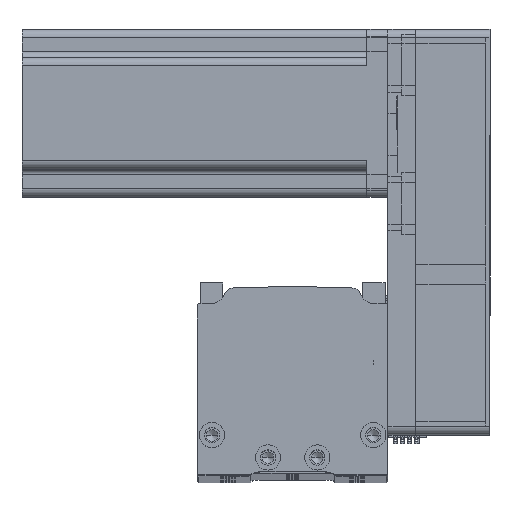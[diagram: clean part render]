
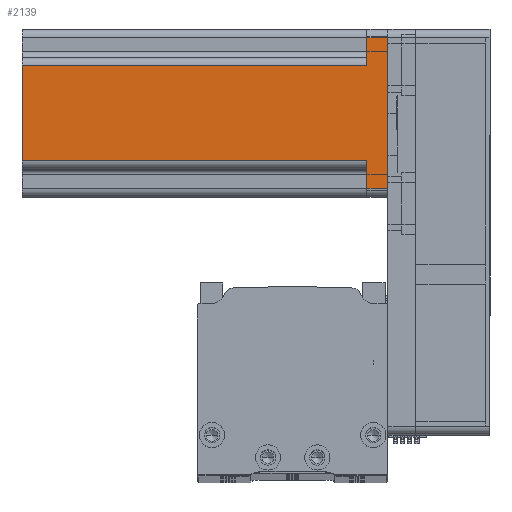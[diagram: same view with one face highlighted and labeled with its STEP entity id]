
A CAD part, top view. The second image highlights one B-rep face of the part: STEP entity #2139.
In plain terms, the highlighted planar face has unit normal (0, 0, 1) as drawn and (0, -1, 0) by its records, which use the part's own axes.
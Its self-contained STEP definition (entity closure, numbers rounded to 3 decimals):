
#496 = LINE ( 'NONE', #47644, #24855 ) ;
#2139 = ADVANCED_FACE ( 'NONE', ( #38403 ), #27820, .F. ) ;
#3108 = CARTESIAN_POINT ( 'NONE',  ( -17., -30., 130.7 ) ) ;
#4051 = VERTEX_POINT ( 'NONE', #52385 ) ;
#4256 = EDGE_CURVE ( 'NONE', #36149, #5729, #42375, .T. ) ;
#4398 = EDGE_CURVE ( 'NONE', #41270, #16251, #56707, .T. ) ;
#5729 = VERTEX_POINT ( 'NONE', #45026 ) ;
#5810 = DIRECTION ( 'NONE',  ( 0., 1., 0. ) ) ;
#6196 = VECTOR ( 'NONE', #42402, 1000. ) ;
#6532 = CARTESIAN_POINT ( 'NONE',  ( 30., -30., 130.7 ) ) ;
#6661 = ORIENTED_EDGE ( 'NONE', *, *, #28246, .T. ) ;
#8921 = LINE ( 'NONE', #6532, #19732 ) ;
#9641 = CARTESIAN_POINT ( 'NONE',  ( 17., -30., 130.7 ) ) ;
#10033 = ORIENTED_EDGE ( 'NONE', *, *, #25596, .F. ) ;
#10522 = CARTESIAN_POINT ( 'NONE',  ( -27., -30., 130.7 ) ) ;
#11936 = DIRECTION ( 'NONE',  ( 1., 0., 0. ) ) ;
#13066 = DIRECTION ( 'NONE',  ( -1., 0., 0. ) ) ;
#13356 = LINE ( 'NONE', #44904, #53522 ) ;
#13911 = CARTESIAN_POINT ( 'NONE',  ( 27., -30., 130.7 ) ) ;
#16251 = VERTEX_POINT ( 'NONE', #42685 ) ;
#17312 = LINE ( 'NONE', #13911, #58162 ) ;
#18415 = LINE ( 'NONE', #10522, #6196 ) ;
#18813 = VERTEX_POINT ( 'NONE', #43843 ) ;
#19732 = VECTOR ( 'NONE', #47970, 1000. ) ;
#20161 = VECTOR ( 'NONE', #11936, 1000. ) ;
#20938 = VECTOR ( 'NONE', #46281, 1000. ) ;
#21194 = CARTESIAN_POINT ( 'NONE',  ( 17., -30., 130.7 ) ) ;
#23577 = ORIENTED_EDGE ( 'NONE', *, *, #4398, .F. ) ;
#24620 = DIRECTION ( 'NONE',  ( 0., 0., -1. ) ) ;
#24855 = VECTOR ( 'NONE', #24620, 1000. ) ;
#25060 = EDGE_CURVE ( 'NONE', #56658, #16251, #496, .T. ) ;
#25596 = EDGE_CURVE ( 'NONE', #56658, #56635, #8921, .T. ) ;
#26616 = LINE ( 'NONE', #9641, #20938 ) ;
#27816 = ORIENTED_EDGE ( 'NONE', *, *, #40052, .T. ) ;
#27820 = PLANE ( 'NONE',  #52608 ) ;
#27879 = EDGE_LOOP ( 'NONE', ( #10033, #52921, #23577, #29150, #6661, #47589, #28572, #27816 ) ) ;
#28246 = EDGE_CURVE ( 'NONE', #18813, #4051, #13356, .T. ) ;
#28572 = ORIENTED_EDGE ( 'NONE', *, *, #4256, .T. ) ;
#29150 = ORIENTED_EDGE ( 'NONE', *, *, #48568, .T. ) ;
#31065 = EDGE_CURVE ( 'NONE', #4051, #36149, #17312, .T. ) ;
#33210 = CARTESIAN_POINT ( 'NONE',  ( 30., -30., 130.7 ) ) ;
#36149 = VERTEX_POINT ( 'NONE', #54101 ) ;
#37831 = DIRECTION ( 'NONE',  ( -1., 0., 0. ) ) ;
#38403 = FACE_OUTER_BOUND ( 'NONE', #27879, .T. ) ;
#40052 = EDGE_CURVE ( 'NONE', #5729, #56635, #26616, .T. ) ;
#40292 = DIRECTION ( 'NONE',  ( 1., 0., 0. ) ) ;
#41270 = VERTEX_POINT ( 'NONE', #42773 ) ;
#42375 = LINE ( 'NONE', #45107, #54603 ) ;
#42402 = DIRECTION ( 'NONE',  ( 0., 0., -1. ) ) ;
#42685 = CARTESIAN_POINT ( 'NONE',  ( -17., -30., 7.5 ) ) ;
#42773 = CARTESIAN_POINT ( 'NONE',  ( -27., -30., 7.5 ) ) ;
#43843 = CARTESIAN_POINT ( 'NONE',  ( -27., -30., 0. ) ) ;
#44904 = CARTESIAN_POINT ( 'NONE',  ( 30., -30., 0. ) ) ;
#45026 = CARTESIAN_POINT ( 'NONE',  ( 17., -30., 7.5 ) ) ;
#45107 = CARTESIAN_POINT ( 'NONE',  ( 20., -30., 7.5 ) ) ;
#45944 = DIRECTION ( 'NONE',  ( 0., 0., 1. ) ) ;
#46281 = DIRECTION ( 'NONE',  ( 0., 0., 1. ) ) ;
#47589 = ORIENTED_EDGE ( 'NONE', *, *, #31065, .T. ) ;
#47644 = CARTESIAN_POINT ( 'NONE',  ( -17., -30., 130.7 ) ) ;
#47970 = DIRECTION ( 'NONE',  ( 1., 0., 0. ) ) ;
#48568 = EDGE_CURVE ( 'NONE', #41270, #18813, #18415, .T. ) ;
#48580 = CARTESIAN_POINT ( 'NONE',  ( -20., -30., 7.5 ) ) ;
#52385 = CARTESIAN_POINT ( 'NONE',  ( 27., -30., 0. ) ) ;
#52608 = AXIS2_PLACEMENT_3D ( 'NONE', #33210, #5810, #37831 ) ;
#52921 = ORIENTED_EDGE ( 'NONE', *, *, #25060, .T. ) ;
#53522 = VECTOR ( 'NONE', #40292, 1000. ) ;
#54101 = CARTESIAN_POINT ( 'NONE',  ( 27., -30., 7.5 ) ) ;
#54603 = VECTOR ( 'NONE', #13066, 1000. ) ;
#56635 = VERTEX_POINT ( 'NONE', #21194 ) ;
#56658 = VERTEX_POINT ( 'NONE', #3108 ) ;
#56707 = LINE ( 'NONE', #48580, #20161 ) ;
#58162 = VECTOR ( 'NONE', #45944, 1000. ) ;
